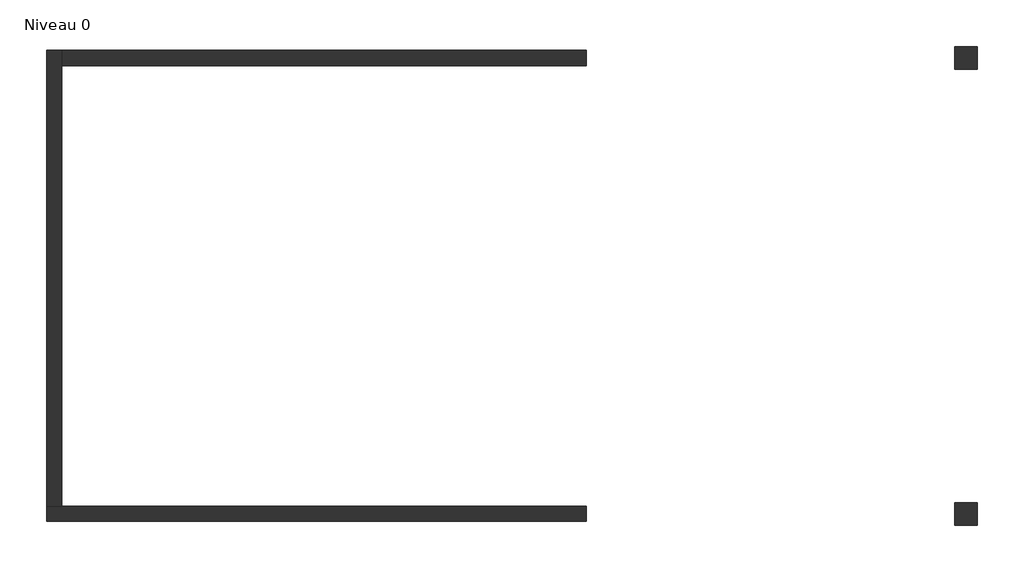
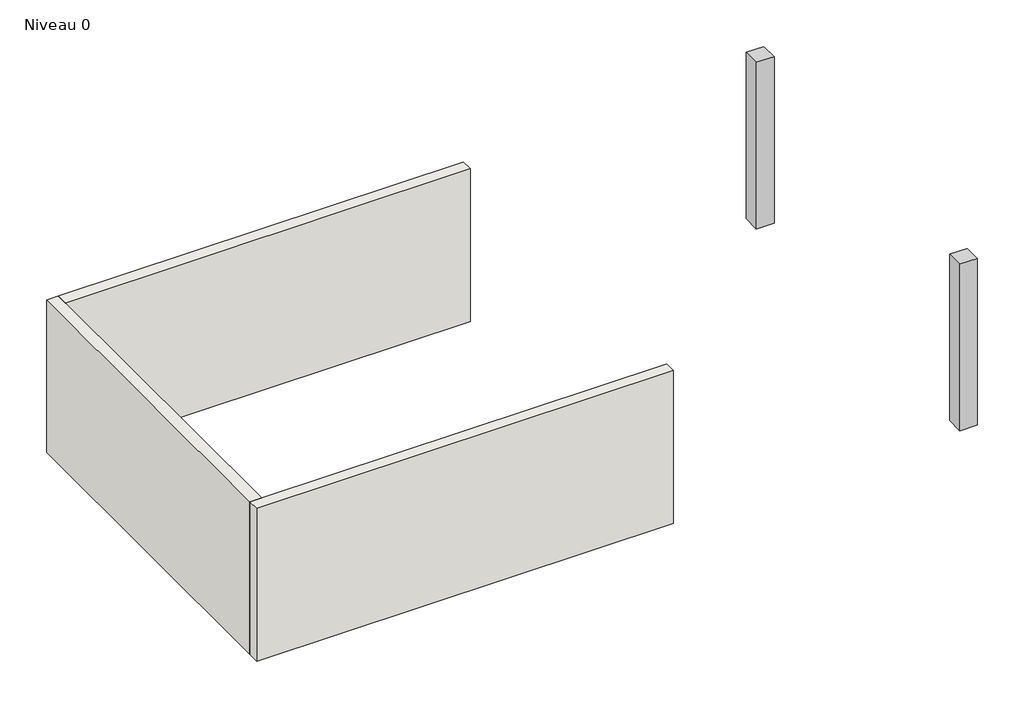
# One storey: 3 walls, 2 columns.
"""IFC4 building model written with IfcOpenShell, lengths in millimetres."""

from ifc_helpers import new_model, si_unit, origin, origin_with_axes, place, context, project, spatial, polyline, outline, extrude, faceted_brep, transform, mapped, element, save
from components import column_ecec69fe

model = new_model("IFC4")

# Units and contexts
model_context = context("Model", 3, world=origin())
ifc_project = project(units=[si_unit("LENGTHUNIT", "METRE", prefix="MILLI")], contexts=[model_context])

# Site, building, storey
site = spatial("IfcSite", under=ifc_project)
building = spatial("IfcBuilding", under=site)
storey = spatial("IfcBuildingStorey", under=building, Name="Niveau 0", Elevation=0.0)

# Columns
placement = place(None, origin())
column_shape = column_ecec69fe(model_context)
element("IfcColumn", 1, ObjectType="Poteau béton - Carré : 300 mm x 300 mm", at=placement, inside=storey, context=model_context, shape_type="MappedRepresentation", body=[
    mapped(column_shape, transform((774.7772873, -158.0970862, 0.0), x_axis=(1.0, 0.0, 0.0), y_axis=(0.0, 1.0, 0.0), z_axis=(0.0, 0.0, 1.0))),
])
element("IfcColumn", 2, ObjectType="Poteau béton - Carré : 300 mm x 300 mm", at=placement, inside=storey, context=model_context, shape_type="MappedRepresentation", body=[
    mapped(column_shape, transform((774.7772873, -6158.0970862, 0.0), x_axis=(1.0, 0.0, 0.0), y_axis=(0.0, 1.0, 0.0), z_axis=(0.0, 0.0, 1.0))),
])

# Walls
element("IfcWall", 3, ObjectType="Ext. Voile BA 20", at=placement, inside=storey, context=model_context, shape_type="Brep", body=[
    faceted_brep([(-4225.2227127, -6058.0970862, 0.0), (-11125.2227127, -6058.0970862, 0.0), (-11325.2227127, -6058.0970862, 0.0), (-11325.2227127, -6058.0970862, 2750.0), (-11125.2227127, -6058.0970862, 2750.0), (-4225.2227127, -6058.0970862, 2750.0), (-4225.2227127, -6258.0970862, 0.0), (-4225.2227127, -6258.0970862, 2750.0), (-11325.2227127, -6258.0970862, 2750.0), (-11325.2227127, -6258.0970862, 0.0)], [[[0, 1, 2, 3, 4, 5]], [[6, 7, 8, 9]], [[2, 1, 0, 6, 9]], [[5, 4, 3, 8, 7]], [[0, 5, 7, 6]], [[3, 2, 9, 8]]]),
])
element("IfcWall", 4, ObjectType="Ext. Voile BA 20", at=placement, inside=storey, context=model_context, shape_type="Brep", body=[
    faceted_brep([(-11125.2227127, -6058.0970862, 0.0), (-11125.2227127, -258.0970862, 0.0), (-11125.2227127, -58.0970862, 0.0), (-11125.2227127, -58.0970862, 2750.0), (-11125.2227127, -258.0970862, 2750.0), (-11125.2227127, -6058.0970862, 2750.0), (-11325.2227127, -6058.0970862, 0.0), (-11325.2227127, -6058.0970862, 2750.0), (-11325.2227127, -58.0970862, 2750.0), (-11325.2227127, -58.0970862, 0.0)], [[[0, 1, 2, 3, 4, 5]], [[6, 7, 8, 9]], [[2, 1, 0, 6, 9]], [[5, 4, 3, 8, 7]], [[0, 5, 7, 6]], [[3, 2, 9, 8]]]),
])
element("IfcWall", 5, ObjectType="Ext. Voile BA 20", at=placement, inside=storey, context=model_context, shape_type="SweptSolid", body=[
    extrude(outline(polyline([(-4225.2227127, -258.0970862), (-11125.2227127, -258.0970862), (-11125.2227127, -58.0970862), (-4225.2227127, -58.0970862), (-4225.2227127, -258.0970862)])), origin_with_axes(), (0.0, 0.0, 1.0), 2750.0),
])

save(model, "model.ifc")
